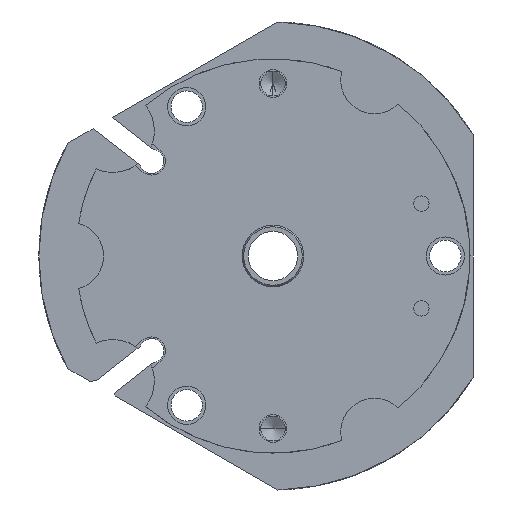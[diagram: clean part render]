
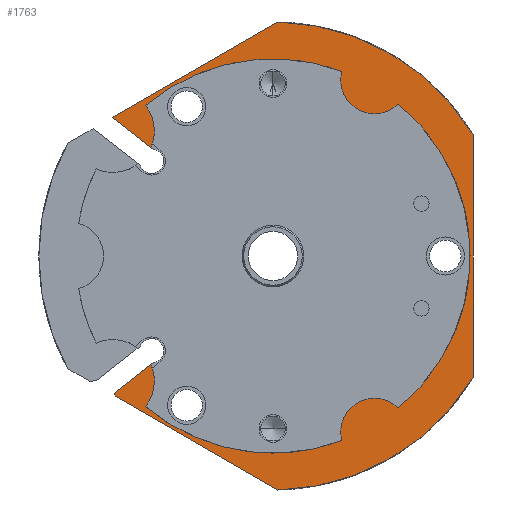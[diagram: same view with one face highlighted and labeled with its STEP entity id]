
A CAD part, front view. The second image highlights one B-rep face of the part: STEP entity #1763.
In plain terms, the highlighted planar face has unit normal (0, -1, 0).
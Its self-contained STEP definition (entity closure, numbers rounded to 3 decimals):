
#160 = AXIS2_PLACEMENT_3D ( 'NONE', #4928, #10788, #6186 ) ;
#193 = EDGE_CURVE ( 'NONE', #6099, #9834, #6967, .T. ) ;
#282 = CARTESIAN_POINT ( 'NONE',  ( 0., -21., 0. ) ) ;
#375 = CARTESIAN_POINT ( 'NONE',  ( -19.81, -21., 17.635 ) ) ;
#449 = DIRECTION ( 'NONE',  ( 0., -1., 0. ) ) ;
#455 = CARTESIAN_POINT ( 'NONE',  ( 0., -21., 0. ) ) ;
#502 = ORIENTED_EDGE ( 'NONE', *, *, #13968, .T. ) ;
#580 = AXIS2_PLACEMENT_3D ( 'NONE', #1449, #9744, #3867 ) ;
#725 = AXIS2_PLACEMENT_3D ( 'NONE', #4957, #4860, #13196 ) ;
#730 = VECTOR ( 'NONE', #11124, 1000. ) ;
#1216 = CIRCLE ( 'NONE', #725, 7.5 ) ;
#1303 = DIRECTION ( 'NONE',  ( 0., -1., 0. ) ) ;
#1449 = CARTESIAN_POINT ( 'NONE',  ( 16.5, -21., 28.579 ) ) ;
#1487 = VECTOR ( 'NONE', #5465, 1000. ) ;
#1523 = CARTESIAN_POINT ( 'NONE',  ( 21.879, -21., -23.352 ) ) ;
#1632 = ORIENTED_EDGE ( 'NONE', *, *, #5198, .F. ) ;
#1673 = CARTESIAN_POINT ( 'NONE',  ( -19.81, -21., -17.635 ) ) ;
#1763 = ADVANCED_FACE ( 'NONE', ( #9754 ), #3490, .T. ) ;
#2139 = CARTESIAN_POINT ( 'NONE',  ( -20.659, -21., 24.438 ) ) ;
#2194 = CARTESIAN_POINT ( 'NONE',  ( 32.5, -21., 19.691 ) ) ;
#2221 = LINE ( 'NONE', #2923, #1487 ) ;
#2404 = CARTESIAN_POINT ( 'NONE',  ( -26.004, -21., 20.317 ) ) ;
#2479 = EDGE_CURVE ( 'NONE', #7845, #8424, #1216, .T. ) ;
#2551 = CIRCLE ( 'NONE', #10878, 32. ) ;
#2641 = CARTESIAN_POINT ( 'NONE',  ( -26.034, -21., 22.497 ) ) ;
#2680 = DIRECTION ( 'NONE',  ( 0., -1., 0. ) ) ;
#2738 = DIRECTION ( 'NONE',  ( 0., 0., 1. ) ) ;
#2865 = ORIENTED_EDGE ( 'NONE', *, *, #193, .T. ) ;
#2923 = CARTESIAN_POINT ( 'NONE',  ( -25.731, -21., -22.261 ) ) ;
#3111 = DIRECTION ( 'NONE',  ( 0., 0., -1. ) ) ;
#3314 = CIRCLE ( 'NONE', #13020, 6.75 ) ;
#3318 = CARTESIAN_POINT ( 'NONE',  ( 9.284, -21., -30.624 ) ) ;
#3322 = VERTEX_POINT ( 'NONE', #4618 ) ;
#3337 = VECTOR ( 'NONE', #14697, 1000. ) ;
#3433 = CARTESIAN_POINT ( 'NONE',  ( 32.5, -21., -19.691 ) ) ;
#3490 = PLANE ( 'NONE',  #8507 ) ;
#3714 = CARTESIAN_POINT ( 'NONE',  ( -25.601, -21., -22.747 ) ) ;
#3763 = VERTEX_POINT ( 'NONE', #8973 ) ;
#3867 = DIRECTION ( 'NONE',  ( 0., 0., -1. ) ) ;
#4012 = CARTESIAN_POINT ( 'NONE',  ( 32.5, -21., 0. ) ) ;
#4040 = LINE ( 'NONE', #7611, #730 ) ;
#4048 = CARTESIAN_POINT ( 'NONE',  ( 0., -21., -32. ) ) ;
#4419 = EDGE_CURVE ( 'NONE', #5667, #10270, #14239, .T. ) ;
#4429 = CIRCLE ( 'NONE', #580, 7.5 ) ;
#4451 = DIRECTION ( 'NONE',  ( 0., -1., 0. ) ) ;
#4618 = CARTESIAN_POINT ( 'NONE',  ( -25.601, -21., -22.747 ) ) ;
#4714 = VERTEX_POINT ( 'NONE', #13008 ) ;
#4744 = CARTESIAN_POINT ( 'NONE',  ( 16.5, -21., 21.079 ) ) ;
#4788 = CIRCLE ( 'NONE', #10390, 32. ) ;
#4790 = CIRCLE ( 'NONE', #8942, 38. ) ;
#4860 = DIRECTION ( 'NONE',  ( 0., -1., 0. ) ) ;
#4928 = CARTESIAN_POINT ( 'NONE',  ( 0., -21., 0. ) ) ;
#4957 = CARTESIAN_POINT ( 'NONE',  ( 16.5, -21., 28.579 ) ) ;
#5070 = CARTESIAN_POINT ( 'NONE',  ( -20.659, -21., -24.438 ) ) ;
#5084 = DIRECTION ( 'NONE',  ( 0., -1., 0. ) ) ;
#5198 = EDGE_CURVE ( 'NONE', #3322, #6052, #2221, .T. ) ;
#5206 = ORIENTED_EDGE ( 'NONE', *, *, #13420, .T. ) ;
#5344 = VECTOR ( 'NONE', #8812, 1000. ) ;
#5424 = CARTESIAN_POINT ( 'NONE',  ( 21.879, -21., 23.352 ) ) ;
#5465 = DIRECTION ( 'NONE',  ( -0.259, 0., 0.966 ) ) ;
#5643 = EDGE_CURVE ( 'NONE', #9379, #10270, #14584, .T. ) ;
#5667 = VERTEX_POINT ( 'NONE', #1523 ) ;
#5687 = DIRECTION ( 'NONE',  ( 0., 0., -1. ) ) ;
#5760 = EDGE_CURVE ( 'NONE', #4714, #7867, #4040, .T. ) ;
#6025 = VERTEX_POINT ( 'NONE', #3433 ) ;
#6052 = VERTEX_POINT ( 'NONE', #13308 ) ;
#6099 = VERTEX_POINT ( 'NONE', #5070 ) ;
#6186 = DIRECTION ( 'NONE',  ( 0., 0., -1. ) ) ;
#6757 = ORIENTED_EDGE ( 'NONE', *, *, #2479, .T. ) ;
#6772 = CARTESIAN_POINT ( 'NONE',  ( 16.5, -21., -28.579 ) ) ;
#6943 = EDGE_CURVE ( 'NONE', #3763, #6025, #4790, .T. ) ;
#6967 = CIRCLE ( 'NONE', #7873, 6.75 ) ;
#7044 = ORIENTED_EDGE ( 'NONE', *, *, #8346, .T. ) ;
#7101 = DIRECTION ( 'NONE',  ( 0.788, 0., -0.616 ) ) ;
#7143 = VERTEX_POINT ( 'NONE', #2194 ) ;
#7611 = CARTESIAN_POINT ( 'NONE',  ( 0.803, -21., 37.992 ) ) ;
#7650 = ORIENTED_EDGE ( 'NONE', *, *, #11820, .T. ) ;
#7732 = VECTOR ( 'NONE', #8481, 1000. ) ;
#7845 = VERTEX_POINT ( 'NONE', #14517 ) ;
#7867 = VERTEX_POINT ( 'NONE', #2641 ) ;
#7873 = AXIS2_PLACEMENT_3D ( 'NONE', #14360, #13022, #11851 ) ;
#8346 = EDGE_CURVE ( 'NONE', #3322, #3763, #15071, .T. ) ;
#8424 = VERTEX_POINT ( 'NONE', #4744 ) ;
#8481 = DIRECTION ( 'NONE',  ( 0.866, 0., -0.5 ) ) ;
#8507 = AXIS2_PLACEMENT_3D ( 'NONE', #14097, #449, #3111 ) ;
#8605 = CARTESIAN_POINT ( 'NONE',  ( -19.81, -21., -17.635 ) ) ;
#8812 = DIRECTION ( 'NONE',  ( -0.788, 0., -0.616 ) ) ;
#8942 = AXIS2_PLACEMENT_3D ( 'NONE', #13587, #11289, #10173 ) ;
#8961 = ORIENTED_EDGE ( 'NONE', *, *, #14305, .F. ) ;
#8973 = CARTESIAN_POINT ( 'NONE',  ( 0.803, -21., -37.992 ) ) ;
#9379 = VERTEX_POINT ( 'NONE', #4048 ) ;
#9744 = DIRECTION ( 'NONE',  ( 0., -1., 0. ) ) ;
#9754 = FACE_OUTER_BOUND ( 'NONE', #10502, .T. ) ;
#9834 = VERTEX_POINT ( 'NONE', #8605 ) ;
#9836 = ORIENTED_EDGE ( 'NONE', *, *, #6943, .T. ) ;
#9996 = ORIENTED_EDGE ( 'NONE', *, *, #5643, .F. ) ;
#10027 = LINE ( 'NONE', #10728, #12957 ) ;
#10173 = DIRECTION ( 'NONE',  ( 0., 0., 1. ) ) ;
#10262 = DIRECTION ( 'NONE',  ( 0., 0., -1. ) ) ;
#10270 = VERTEX_POINT ( 'NONE', #3318 ) ;
#10390 = AXIS2_PLACEMENT_3D ( 'NONE', #13744, #13794, #5687 ) ;
#10502 = EDGE_LOOP ( 'NONE', ( #11195, #15141, #14871, #6757, #5206, #8961, #11854, #9996, #11617, #2865, #502, #1632, #7044, #9836, #7650, #15226, #10911 ) ) ;
#10514 = EDGE_CURVE ( 'NONE', #7143, #4714, #14456, .T. ) ;
#10572 = VERTEX_POINT ( 'NONE', #5424 ) ;
#10598 = DIRECTION ( 'NONE',  ( 0., -1., 0. ) ) ;
#10663 = DIRECTION ( 'NONE',  ( 0., 0., -1. ) ) ;
#10728 = CARTESIAN_POINT ( 'NONE',  ( -26.034, -21., 22.497 ) ) ;
#10788 = DIRECTION ( 'NONE',  ( 0., -1., 0. ) ) ;
#10874 = AXIS2_PLACEMENT_3D ( 'NONE', #455, #5084, #14530 ) ;
#10878 = AXIS2_PLACEMENT_3D ( 'NONE', #11883, #1303, #10663 ) ;
#10911 = ORIENTED_EDGE ( 'NONE', *, *, #5760, .T. ) ;
#11094 = LINE ( 'NONE', #4012, #3337 ) ;
#11124 = DIRECTION ( 'NONE',  ( -0.866, 0., -0.5 ) ) ;
#11195 = ORIENTED_EDGE ( 'NONE', *, *, #12702, .T. ) ;
#11268 = VERTEX_POINT ( 'NONE', #2139 ) ;
#11289 = DIRECTION ( 'NONE',  ( 0., -1., 0. ) ) ;
#11532 = EDGE_CURVE ( 'NONE', #6099, #9379, #13289, .T. ) ;
#11543 = AXIS2_PLACEMENT_3D ( 'NONE', #6772, #4451, #10262 ) ;
#11617 = ORIENTED_EDGE ( 'NONE', *, *, #11532, .F. ) ;
#11794 = VERTEX_POINT ( 'NONE', #375 ) ;
#11820 = EDGE_CURVE ( 'NONE', #6025, #7143, #11094, .T. ) ;
#11851 = DIRECTION ( 'NONE',  ( 0., 0., -1. ) ) ;
#11854 = ORIENTED_EDGE ( 'NONE', *, *, #4419, .T. ) ;
#11883 = CARTESIAN_POINT ( 'NONE',  ( 0., -21., 0. ) ) ;
#12702 = EDGE_CURVE ( 'NONE', #7867, #11794, #10027, .T. ) ;
#12929 = DIRECTION ( 'NONE',  ( 0., 0., -1. ) ) ;
#12957 = VECTOR ( 'NONE', #7101, 1000. ) ;
#13008 = CARTESIAN_POINT ( 'NONE',  ( 0.803, -21., 37.992 ) ) ;
#13020 = AXIS2_PLACEMENT_3D ( 'NONE', #2404, #10598, #12929 ) ;
#13022 = DIRECTION ( 'NONE',  ( 0., -1., 0. ) ) ;
#13196 = DIRECTION ( 'NONE',  ( 0., 0., -1. ) ) ;
#13289 = CIRCLE ( 'NONE', #160, 32. ) ;
#13308 = CARTESIAN_POINT ( 'NONE',  ( -25.731, -21., -22.261 ) ) ;
#13420 = EDGE_CURVE ( 'NONE', #8424, #10572, #4429, .T. ) ;
#13581 = EDGE_CURVE ( 'NONE', #7845, #11268, #4788, .T. ) ;
#13587 = CARTESIAN_POINT ( 'NONE',  ( 0., -21., 0. ) ) ;
#13670 = EDGE_CURVE ( 'NONE', #11794, #11268, #3314, .T. ) ;
#13744 = CARTESIAN_POINT ( 'NONE',  ( 0., -21., 0. ) ) ;
#13794 = DIRECTION ( 'NONE',  ( 0., -1., 0. ) ) ;
#13968 = EDGE_CURVE ( 'NONE', #9834, #6052, #15309, .T. ) ;
#14097 = CARTESIAN_POINT ( 'NONE',  ( 0., -21., 0. ) ) ;
#14239 = CIRCLE ( 'NONE', #11543, 7.5 ) ;
#14305 = EDGE_CURVE ( 'NONE', #5667, #10572, #2551, .T. ) ;
#14360 = CARTESIAN_POINT ( 'NONE',  ( -26.004, -21., -20.317 ) ) ;
#14456 = CIRCLE ( 'NONE', #14969, 38. ) ;
#14517 = CARTESIAN_POINT ( 'NONE',  ( 9.284, -21., 30.624 ) ) ;
#14530 = DIRECTION ( 'NONE',  ( 0., 0., -1. ) ) ;
#14584 = CIRCLE ( 'NONE', #10874, 32. ) ;
#14697 = DIRECTION ( 'NONE',  ( 0., 0., 1. ) ) ;
#14871 = ORIENTED_EDGE ( 'NONE', *, *, #13581, .F. ) ;
#14969 = AXIS2_PLACEMENT_3D ( 'NONE', #282, #2680, #2738 ) ;
#15071 = LINE ( 'NONE', #3714, #7732 ) ;
#15141 = ORIENTED_EDGE ( 'NONE', *, *, #13670, .T. ) ;
#15226 = ORIENTED_EDGE ( 'NONE', *, *, #10514, .T. ) ;
#15309 = LINE ( 'NONE', #1673, #5344 ) ;
